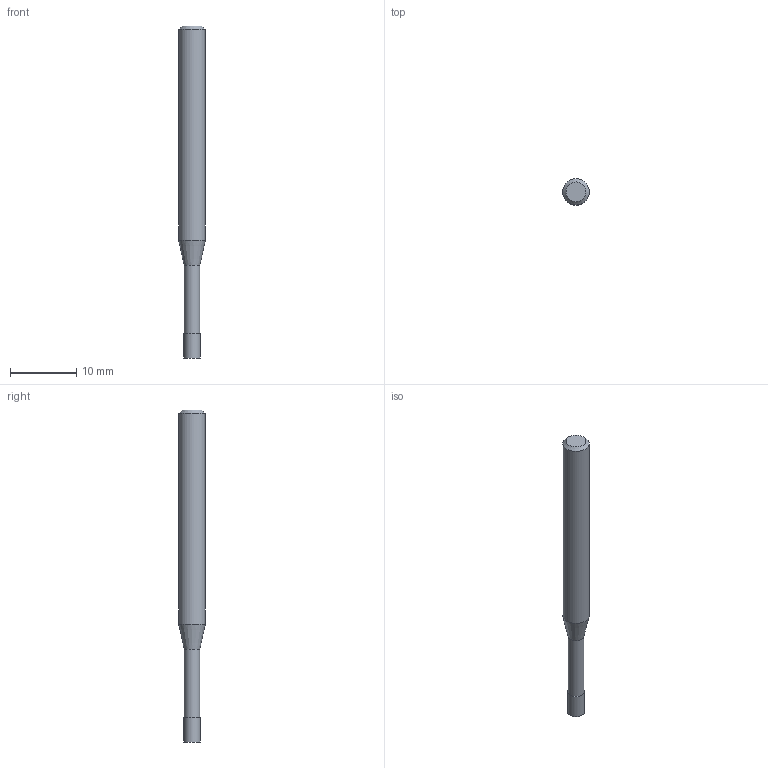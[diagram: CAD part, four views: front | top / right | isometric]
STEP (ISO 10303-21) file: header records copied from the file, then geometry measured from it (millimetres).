
FILE_DESCRIPTION((''),'2;1');
FILE_NAME('C:\Users\nsx150\AppData\Local\Temp\Mastercam 2021\17T8Q8S9EB\TEMP.step','2021-04-21T14:28:04',(''),(''),'STEP Write','Mastercam 2021 ... CNC Software, Inc.','');
FILE_SCHEMA(('AUTOMOTIVE_DESIGN'));
Length unit declared in the file: millimetre
Products named in the file (1): None
Bounding box: 4 x 4 x 50 mm (x, y, z)
Volume: 499.3 mm3; surface area: 573.4 mm2
Topology: 2 solids, 2 shells, 9 faces, 12 edges, 7 vertices
Faces by surface type: plane 4, cylinder 3, cone 2
Full cylindrical faces by diameter (mm): 2.4 x1, 2.5 x1, 4 x1
Entity records: 211 total; most frequent: DIRECTION 36, CARTESIAN_POINT 25, AXIS2_PLACEMENT_3D 18, ORIENTED_EDGE 14, EDGE_LOOP 14, STYLED_ITEM 12, ADVANCED_FACE 9, FACE_BOUND 8
